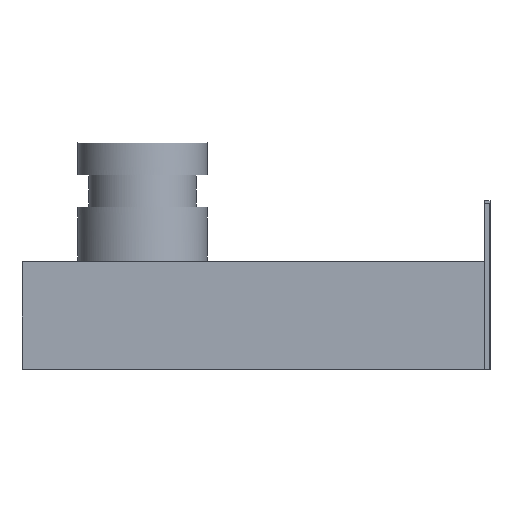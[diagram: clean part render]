
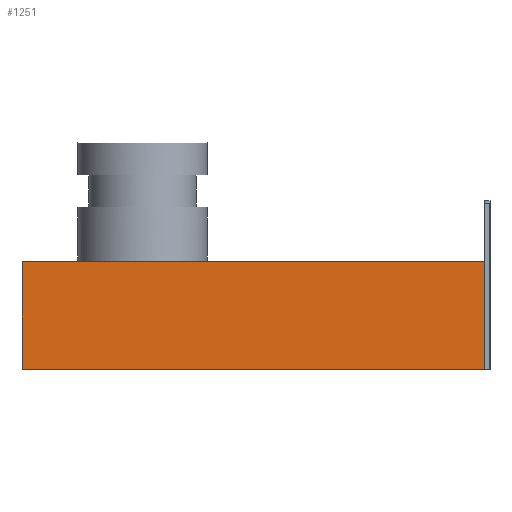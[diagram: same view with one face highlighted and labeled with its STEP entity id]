
A CAD part, left-side view. The second image highlights one B-rep face of the part: STEP entity #1251.
In plain terms, the highlighted planar face has unit normal (-1, 0, 0).
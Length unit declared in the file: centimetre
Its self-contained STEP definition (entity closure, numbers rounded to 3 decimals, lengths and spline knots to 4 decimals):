
#318=ORIENTED_EDGE('',*,*,#546,.F.);
#319=ORIENTED_EDGE('',*,*,#547,.F.);
#320=ORIENTED_EDGE('',*,*,#540,.T.);
#321=ORIENTED_EDGE('',*,*,#548,.T.);
#540=EDGE_CURVE('',#674,#672,#816,.T.);
#546=EDGE_CURVE('',#678,#679,#822,.T.);
#547=EDGE_CURVE('',#674,#678,#823,.T.);
#548=EDGE_CURVE('',#672,#679,#824,.T.);
#672=VERTEX_POINT('',#2562);
#674=VERTEX_POINT('',#2565);
#678=VERTEX_POINT('',#2577);
#679=VERTEX_POINT('',#2578);
#816=LINE('',#2564,#952);
#822=LINE('',#2576,#958);
#823=LINE('',#2579,#959);
#824=LINE('',#2580,#960);
#952=VECTOR('',#2129,100.);
#958=VECTOR('',#2139,100.);
#959=VECTOR('',#2140,100.);
#960=VECTOR('',#2141,100.);
#1036=EDGE_LOOP('',(#318,#319,#320,#321));
#1126=FACE_BOUND('',#1036,.T.);
#1191=PLANE('',#1854);
#1251=ADVANCED_FACE('',(#1126),#1191,.F.);
#1854=AXIS2_PLACEMENT_3D('',#2575,#2137,#2138);
#2129=DIRECTION('',(0.,0.,-1.));
#2137=DIRECTION('',(1.,0.,0.));
#2138=DIRECTION('',(0.,-1.,0.));
#2139=DIRECTION('',(0.,0.,-1.));
#2140=DIRECTION('',(0.,-1.,0.));
#2141=DIRECTION('',(0.,-1.,0.));
#2562=CARTESIAN_POINT('',(-4.7676,5.8258,0.));
#2564=CARTESIAN_POINT('',(-4.7676,5.8258,1.));
#2565=CARTESIAN_POINT('',(-4.7676,5.8258,1.));
#2575=CARTESIAN_POINT('',(-4.7676,3.8369,1.));
#2576=CARTESIAN_POINT('',(-4.7676,1.5355,0.5));
#2577=CARTESIAN_POINT('',(-4.7676,1.5355,1.));
#2578=CARTESIAN_POINT('',(-4.7676,1.5355,0.));
#2579=CARTESIAN_POINT('',(-4.7676,3.8369,1.));
#2580=CARTESIAN_POINT('',(-4.7676,3.8369,0.));
